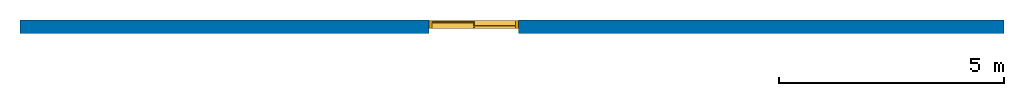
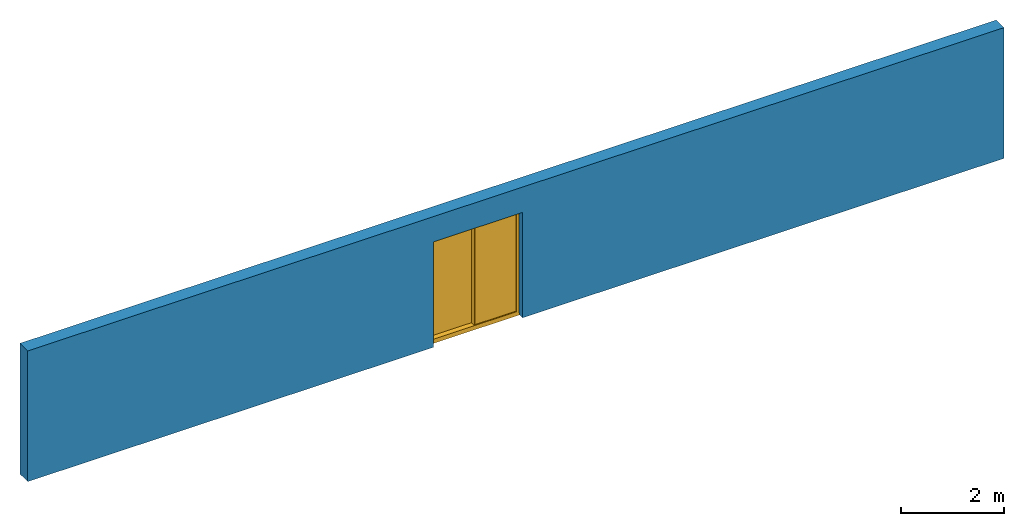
# One storey: 1 wall, 1 window, 1 opening.
"""IFC2X3 building model written with IfcOpenShell, lengths in metres."""

from ifc_helpers import new_model, entity, si_unit, converted_unit, derived_unit, direction, frame, frame_2d, origin, origin_2d_with_axis, place, context, subcontext, project, spatial, polyline, rectangle, outline, extrude, source, transform, mapped, material, material_list, layer, layer_set, layer_usage, type_object, type_shapes, element, fill, save


model = new_model("IFC2X3")

# Units and contexts
model_context = context("Model", 3, precision=1e-09, world=origin(), true_north=direction((2.0, 6.12303176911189e-17, 1.0)))
context_of_model = context(None, 3, precision=1e-09, world=origin(), true_north=direction((2.0, 6.12303176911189e-17, 1.0)))
body_context = subcontext(model_context, "Body", "Model", "MODEL_VIEW")
ifc_project = project(units=[si_unit("LENGTHUNIT", "METRE"), si_unit("AREAUNIT", "SQUARE_METRE"), si_unit("VOLUMEUNIT", "CUBIC_METRE"), converted_unit("PLANEANGLEUNIT", "DEGREE", entity("IfcRatioMeasure", 0.0174532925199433), si_unit("PLANEANGLEUNIT", "RADIAN"), dimensions=[0, 0, 0, 0, 0, 0, 0]), si_unit("MASSUNIT", "GRAM", prefix="KILO"), si_unit("TIMEUNIT", "SECOND"), si_unit("THERMODYNAMICTEMPERATUREUNIT", "KELVIN"), derived_unit("THERMALTRANSMITTANCEUNIT", [(si_unit("MASSUNIT", "GRAM", prefix="KILO"), 1), (si_unit("THERMODYNAMICTEMPERATUREUNIT", "KELVIN"), -1), (si_unit("TIMEUNIT", "SECOND"), -3)]), derived_unit("VOLUMETRICFLOWRATEUNIT", [(si_unit("LENGTHUNIT", "METRE"), 3), (si_unit("TIMEUNIT", "SECOND"), -1)]), si_unit("POWERUNIT", "WATT")], contexts=[model_context, context_of_model])

# Site, building, storey
site_placement = place(None, origin())
site = spatial("IfcSite", under=ifc_project, at=site_placement, Name="Default", CompositionType="ELEMENT")
building_placement = place(site_placement, origin())
building = spatial("IfcBuilding", under=site, at=building_placement, CompositionType="ELEMENT")
storey_placement = place(building_placement, origin())
storey = spatial("IfcBuildingStorey", under=building, at=storey_placement, Name="0 - Piano Terra", CompositionType="ELEMENT", Elevation=0.0)

# Wall, opening, window
ifc_material_1 = material(Name="Default - Muro")
ifc_layer = layer(ifc_material_1, 0.3)
ifc_layer_set = layer_set([ifc_layer], Name="Muro di base:Generico - 30 cm")
ifc_layer_usage = layer_usage(ifc_layer_set, "AXIS2", "NEGATIVE", 0.15)
wall_type = type_object("IfcWallType", Name="Muro di base:Generico - 30 cm", PredefinedType="STANDARD", material=ifc_layer_set)
wall_placement = place(storey_placement, frame((-11.4728459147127, -0.480358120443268, 0.0)))
wall = element("IfcWallStandardCase", 1, at=wall_placement, inside=storey, type_object=wall_type, material=ifc_layer_usage, Name="Muro di base:Generico - 30 cm", ObjectType="Muro di base:Generico - 30 cm:952", context=body_context, shape_type="SweptSolid", body=[
    extrude(rectangle(XDim=21.9, YDim=0.3, at=frame_2d((10.95, 0.0), x_axis=(-1.0, 0.0))), origin(), (0.0, 0.0, 1.0), 3.1),
])
opening_placement = place(wall_placement, frame((9.10000000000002, -0.15000000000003, 0.0)))
opening = element("IfcOpeningElement", 2, at=opening_placement, cuts=wall, Name="Aluk_Infinium_2 ante:2 ante scorrevoli:1", ObjectType="Opening", context=body_context, shape_type="SweptSolid", body=[
    extrude(rectangle(XDim=2.50000000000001, YDim=1.99999999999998, at=frame_2d((1.25000000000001, 0.999999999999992), x_axis=(1.0, 0.0))), frame((0.0, 0.0, 0.0), z_axis=(0.0, 1.0, 0.0), x_axis=(0.0, 0.0, 1.0)), (0.0, 0.0, 1.0), 0.3),
])
ifc_material_2 = material(Name="Aluk (IT)")
ifc_material_3 = material(Name="Vetro")
ifc_material_list_1 = material_list([ifc_material_2, ifc_material_3])
ifc_material_list_2 = material_list([ifc_material_2, ifc_material_3])
window_style = type_object("IfcWindowStyle", Name="2 ante scorrevoli", ConstructionType="NOTDEFINED", OperationType="NOTDEFINED", ParameterTakesPrecedence=False, Sizeable=False, material=ifc_material_list_2)
shared_shape = source(origin(), body_context, "Body", "SweptSolid", [
    extrude(outline(polyline([(-1.21435077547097, -0.980400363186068), (1.21435077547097, -0.980400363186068), (1.21435077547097, 0.980400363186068), (-1.21435077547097, 0.980400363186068), (-1.21435077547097, -0.980400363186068)]), holes=[polyline([(1.16195208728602, -0.928001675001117), (-1.16195208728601, -0.928001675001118), (-1.16195208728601, 0.928001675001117), (1.16195208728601, 0.928001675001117), (1.16195208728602, -0.928001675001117)])]), frame((1.0, 0.115004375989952, 1.26104960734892), z_axis=(0.0, 1.0, 0.0), x_axis=(0.0, 0.0, -1.0)), (0.0, 0.0, 1.0), 0.174995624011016),
    extrude(outline(polyline([(-1.21815067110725, -0.980400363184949), (-1.21815067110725, -0.994999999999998), (1.22545048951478, -0.994999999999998), (1.22545048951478, 0.994999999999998), (-1.21815067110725, 0.994999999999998), (-1.21815067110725, 0.980400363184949), (1.21085085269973, 0.980400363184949), (1.21085085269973, -0.980400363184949), (-1.21815067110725, -0.980400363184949)])), frame((1.0, 0.123654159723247, 1.26454951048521), z_axis=(0.0, -1.0, 0.0), x_axis=(0.0, 0.0, 1.0)), (0.0, 0.0, -1.0), 0.157696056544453),
    extrude(outline(polyline([(-0.0283828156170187, -0.0105153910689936), (0.0784462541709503, -0.0105153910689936), (0.0784462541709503, 0.0104628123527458), (0.0633194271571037, 0.0104628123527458), (0.0633194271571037, -0.00233147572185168), (0.0283828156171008, -0.00233147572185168), (0.0283828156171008, 0.0104583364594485), (-0.0784462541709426, 0.0104583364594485), (-0.0784462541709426, -0.010536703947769), (-0.0633194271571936, -0.010536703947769), (-0.0633194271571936, 0.00246242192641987), (-0.0283828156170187, 0.00246242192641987), (-0.0283828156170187, -0.0105153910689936)])), frame((0.999986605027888, 0.202502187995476, 0.0999974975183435), z_axis=(0.0, 0.0, 1.0), x_axis=(0.0, 1.0, 0.0)), (0.0, 0.0, 1.0), 2.32297865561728),
    extrude(rectangle(XDim=0.0100000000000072, YDim=0.943297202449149, at=origin_2d_with_axis()), frame((1.46916834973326, 0.144182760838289, 0.0869993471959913), z_axis=(0.0, 0.0, 1.0), x_axis=(0.0, -1.0, 0.0)), (0.0, 0.0, 1.0), 2.34897495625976),
    extrude(rectangle(XDim=0.943292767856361, YDim=0.00999999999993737, at=origin_2d_with_axis()), frame((1.46917056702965, 0.169119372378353, 0.0869993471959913), z_axis=(0.0, 0.0, 1.0), x_axis=(-1.0, 0.0, 0.0)), (0.0, 0.0, 1.0), 2.34897495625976),
    extrude(rectangle(XDim=0.00999999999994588, YDim=0.943160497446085, at=origin_2d_with_axis()), frame((0.530763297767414, 0.235885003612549, 0.0869993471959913), z_axis=(0.0, 0.0, 1.0), x_axis=(0.0, -1.0, 0.0)), (0.0, 0.0, 1.0), 2.34897495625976),
    extrude(rectangle(XDim=0.943135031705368, YDim=0.0100000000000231, at=origin_2d_with_axis()), frame((0.530750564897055, 0.260821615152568, 0.0869993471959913), z_axis=(0.0, 0.0, 1.0), x_axis=(-1.0, 0.0, 0.0)), (0.0, 0.0, 1.0), 2.34897495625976),
    extrude(rectangle(XDim=1.99, YDim=0.174995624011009, at=origin_2d_with_axis()), frame((1.0, 0.202502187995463, 0.0)), (0.0, 0.0, 1.0), 0.0466988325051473),
])
type_shapes(window_style, [shared_shape])
window_placement = place(storey_placement, frame((-2.37284591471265, -0.630358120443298, 0.0)))
window = element("IfcWindow", 3, at=window_placement, inside=storey, type_object=window_style, material=ifc_material_list_1, Name="Aluk_Infinium_2 ante:2 ante scorrevoli", ObjectType="2 ante scorrevoli", OverallHeight=2.50000000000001, OverallWidth=1.99999999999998, context=body_context, shape_type="MappedRepresentation", body=[
    mapped(shared_shape, transform((0.0, 0.0, 0.0), scale=1.0)),
])
fill(opening, window)

save(model, "model.ifc")
